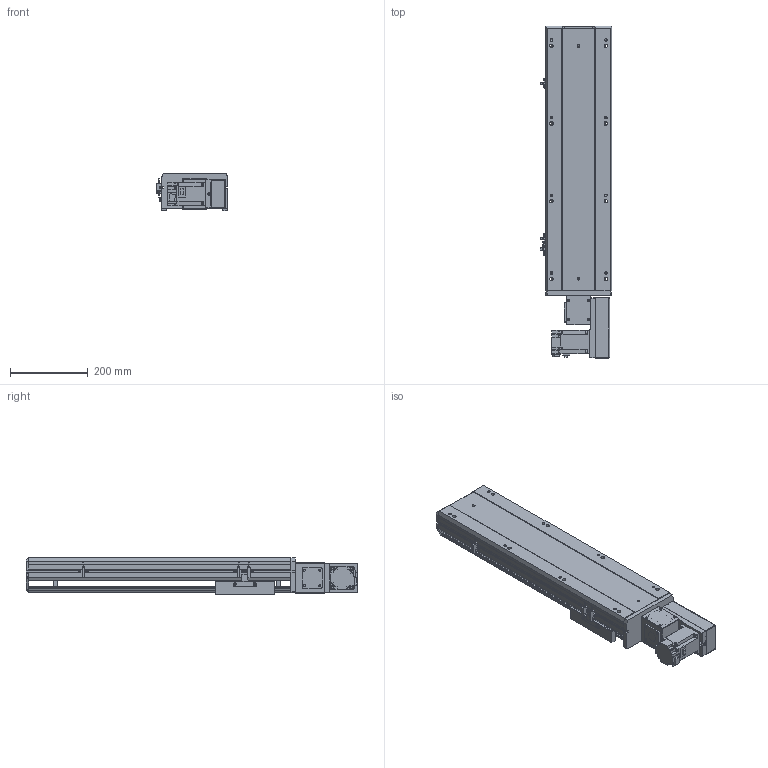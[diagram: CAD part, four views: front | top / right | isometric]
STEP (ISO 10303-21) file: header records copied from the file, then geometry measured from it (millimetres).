
FILE_DESCRIPTION (( 'STEP AP203' ), '1' );
FILE_NAME ('BTB17-L40-400-L-M40-C4.STEP', '2022-07-20T02:41:35', ( 'CXY' ), ( 'BT' ), 'SwSTEP 2.0', 'SolidWorks 2016', '' );
FILE_SCHEMA (( 'CONFIG_CONTROL_DESIGN' ));
Length unit declared in the file: millimetre
Products named in the file (11): BTB17-L-HZ; BTB17-L-菁釱_XD; BTB17-L-04; FS-08-T40; BTB17-L-24; BTB17-L-01; BTB17-L-23; M40; BTB17-L40-400-L-M40-C4; FS-07-T40(1); BTB17-L-06
Assembly tree (13 placements, depth 2):
  BTB17-L40-400-L-M40-C4
    BTB17-L-菁釱_XD
    BTB17-L-01
    BTB17-L-04  x3
    BTB17-L-06
    BTB17-L-23  x2
    BTB17-L-24
    BTB17-L-HZ
    FS-07-T40(1)
    FS-08-T40
    M40
Bounding box: 183.7 x 854.5 x 97 mm (x, y, z)
Volume: 6860016.9 mm3; surface area: 1027732 mm2
Topology: 22 solids, 22 shells, 1561 faces, 4119 edges, 2618 vertices
Faces by surface type: plane 901, cylinder 488, cone 140, torus 16, bspline 16
Entity records: 40450 total; most frequent: CARTESIAN_POINT 8002, DIRECTION 6553, ORIENTED_EDGE 6414, EDGE_CURVE 3207, AXIS2_PLACEMENT_3D 2191, LINE 2171, VECTOR 2171, VERTEX_POINT 2086
